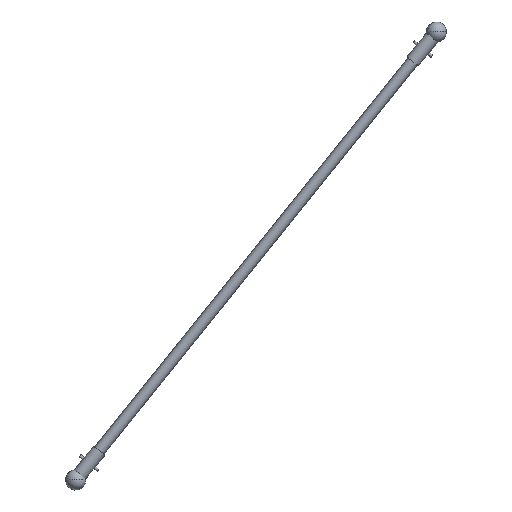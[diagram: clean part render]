
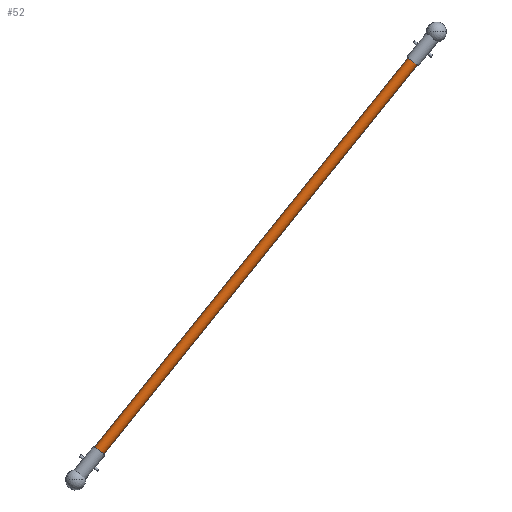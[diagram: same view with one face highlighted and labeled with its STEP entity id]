
A CAD part, front view. The second image highlights one B-rep face of the part: STEP entity #52.
In plain terms, the highlighted cylindrical face has radius 8 mm (diameter 16 mm), a partial arc.
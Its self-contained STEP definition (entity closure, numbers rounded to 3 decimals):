
#23 = ORIENTED_EDGE ( 'NONE', *, *, #1482, .F. ) ;
#52 = ADVANCED_FACE ( 'NONE', ( #1237 ), #351, .T. ) ;
#168 = CARTESIAN_POINT ( 'NONE',  ( 81.066, -51., -857.109 ) ) ;
#224 = CIRCLE ( 'NONE', #1480, 8. ) ;
#232 = EDGE_LOOP ( 'NONE', ( #1136, #912, #971, #23 ) ) ;
#246 = DIRECTION ( 'NONE',  ( -0.627, 0., -0.779 ) ) ;
#255 = LINE ( 'NONE', #753, #561 ) ;
#348 = CARTESIAN_POINT ( 'NONE',  ( 517.073, -51., -315.887 ) ) ;
#351 = CYLINDRICAL_SURFACE ( 'NONE', #1519, 8. ) ;
#495 = DIRECTION ( 'NONE',  ( 0.779, 0., -0.627 ) ) ;
#508 = CIRCLE ( 'NONE', #1154, 8. ) ;
#509 = CARTESIAN_POINT ( 'NONE',  ( 523.303, -51., -320.905 ) ) ;
#515 = CARTESIAN_POINT ( 'NONE',  ( 535.223, -51., -306.109 ) ) ;
#561 = VECTOR ( 'NONE', #1431, 1000. ) ;
#580 = CARTESIAN_POINT ( 'NONE',  ( 87.295, -51., -862.128 ) ) ;
#693 = DIRECTION ( 'NONE',  ( -0.627, 0., -0.779 ) ) ;
#753 = CARTESIAN_POINT ( 'NONE',  ( 522.763, -51., -296.072 ) ) ;
#754 = VERTEX_POINT ( 'NONE', #580 ) ;
#758 = CARTESIAN_POINT ( 'NONE',  ( 74.836, -51., -852.091 ) ) ;
#833 = CARTESIAN_POINT ( 'NONE',  ( 510.843, -51., -310.868 ) ) ;
#848 = EDGE_CURVE ( 'NONE', #921, #754, #224, .T. ) ;
#852 = CARTESIAN_POINT ( 'NONE',  ( 528.993, -51., -301.091 ) ) ;
#912 = ORIENTED_EDGE ( 'NONE', *, *, #1261, .T. ) ;
#921 = VERTEX_POINT ( 'NONE', #758 ) ;
#971 = ORIENTED_EDGE ( 'NONE', *, *, #848, .T. ) ;
#1034 = VERTEX_POINT ( 'NONE', #833 ) ;
#1043 = DIRECTION ( 'NONE',  ( 0.779, 0., -0.627 ) ) ;
#1136 = ORIENTED_EDGE ( 'NONE', *, *, #1416, .T. ) ;
#1154 = AXIS2_PLACEMENT_3D ( 'NONE', #348, #246, #495 ) ;
#1159 = DIRECTION ( 'NONE',  ( 0.627, 0., 0.779 ) ) ;
#1237 = FACE_OUTER_BOUND ( 'NONE', #232, .T. ) ;
#1261 = EDGE_CURVE ( 'NONE', #1034, #921, #255, .T. ) ;
#1274 = LINE ( 'NONE', #515, #1291 ) ;
#1291 = VECTOR ( 'NONE', #1411, 1000. ) ;
#1411 = DIRECTION ( 'NONE',  ( -0.627, 0., -0.779 ) ) ;
#1416 = EDGE_CURVE ( 'NONE', #1471, #1034, #508, .T. ) ;
#1431 = DIRECTION ( 'NONE',  ( -0.627, 0., -0.779 ) ) ;
#1471 = VERTEX_POINT ( 'NONE', #509 ) ;
#1480 = AXIS2_PLACEMENT_3D ( 'NONE', #168, #1159, #1043 ) ;
#1482 = EDGE_CURVE ( 'NONE', #1471, #754, #1274, .T. ) ;
#1519 = AXIS2_PLACEMENT_3D ( 'NONE', #852, #693, #1606 ) ;
#1606 = DIRECTION ( 'NONE',  ( 0.779, 0., -0.627 ) ) ;
